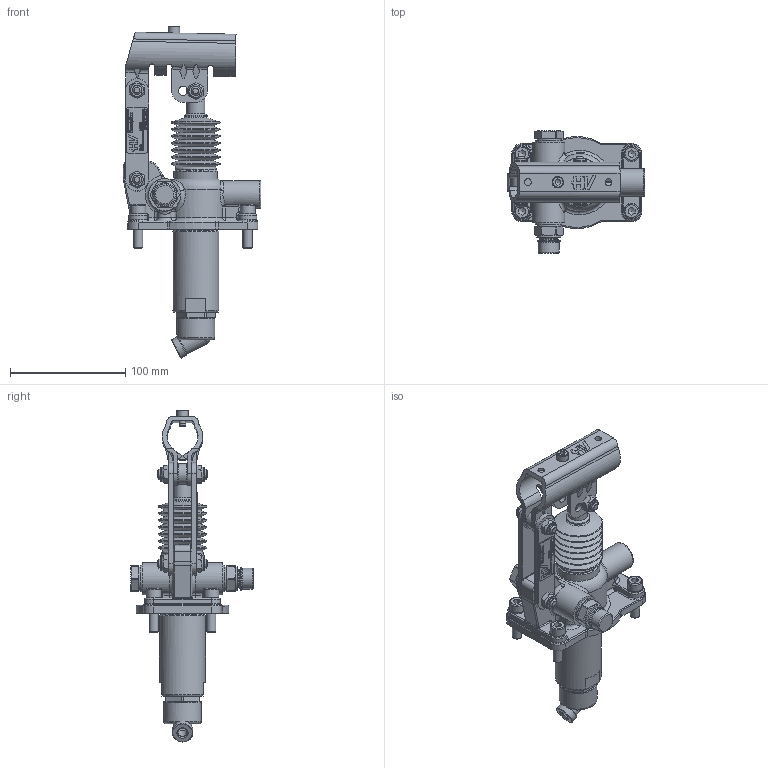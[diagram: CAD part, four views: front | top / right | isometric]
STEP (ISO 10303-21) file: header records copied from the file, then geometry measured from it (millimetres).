
FILE_DESCRIPTION((''),'2;1');
FILE_NAME('G:\HV_HYDRAULIC\AZIENDA_HV_HYDRAULIC\ARCHIVIO_DISEGNI\5_PRODOTTI_FINITI\1_POMPE_MANUALI\6052_PM_45\6052.0118_PM_45_e-s_(HV)\6052.0118.stp','2024-02-28T14:06:34',('christian.scardovi'),(''),'Autodesk Inventor 2013','Autodesk Inventor 2013','');
FILE_SCHEMA(('AUTOMOTIVE_DESIGN { 1 0 10303 214 1 1 1 1 }'));
Length unit declared in the file: millimetre
Products named in the file (1): 6052.0118
Bounding box: 119.5 x 106.5 x 288.31 mm (x, y, z)
Surface area: 121482.7 mm2
Topology: 2 solids, 3 shells, 1370 faces, 3468 edges, 2195 vertices
Faces by surface type: plane 676, cylinder 280, bspline 190, cone 120, torus 89, sphere 15
Full cylindrical faces by diameter (mm): 5 x3, 6 x4, 6.5 x1, 8 x15, 9 x2, 9.2 x1, 10 x2, 10.376 x1, 11.05 x6, 12 x5, 13 x4, 13.2 x1, 14 x4, 14.95 x2, 16 x3, 16.6 x1, 18 x4, 20 x2, 21 x3, 21.6 x1, 22 x2, 23 x2, 24 x2, 26.5 x1, 27 x1, 28 x1, 29 x1, 30 x2, 32 x1, 33 x1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
Entity records: 43197 total; most frequent: CARTESIAN_POINT 11175, ORIENTED_EDGE 6412, DIRECTION 5809, EDGE_CURVE 3206, VERTEX_POINT 2135, AXIS2_PLACEMENT_3D 2014, VECTOR 1781, LINE 1781
